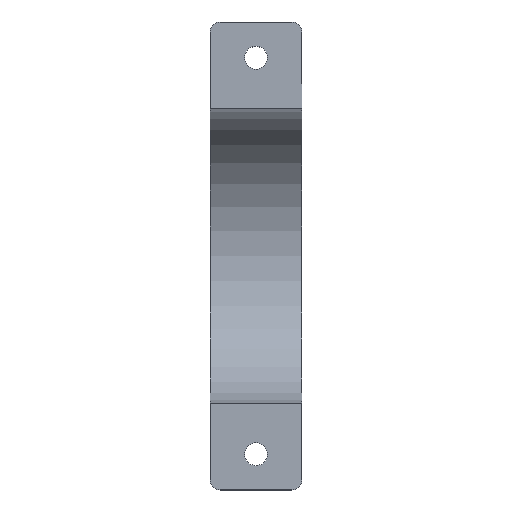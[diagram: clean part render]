
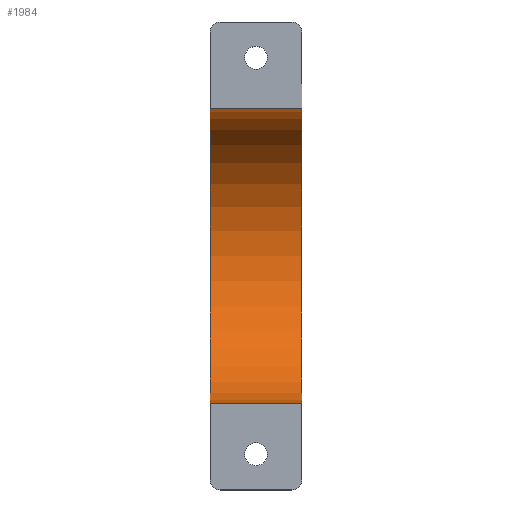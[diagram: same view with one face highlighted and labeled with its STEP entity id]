
A CAD part, top view. The second image highlights one B-rep face of the part: STEP entity #1984.
In plain terms, the highlighted cylindrical face has radius 28.8 mm (diameter 57.6 mm), a partial arc.
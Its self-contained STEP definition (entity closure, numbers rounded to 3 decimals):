
#45 = PLANE('',#46);
#46 = AXIS2_PLACEMENT_3D('',#47,#48,#49);
#47 = CARTESIAN_POINT('',(-9.,0.,0.));
#48 = DIRECTION('',(1.,0.,0.));
#49 = DIRECTION('',(-0.,0.,1.));
#72 = PLANE('',#73);
#73 = AXIS2_PLACEMENT_3D('',#74,#75,#76);
#74 = CARTESIAN_POINT('',(-60.,-80.,-0.75));
#75 = DIRECTION('',(0.,0.,1.));
#76 = DIRECTION('',(1.,0.,0.));
#307 = PLANE('',#308);
#308 = AXIS2_PLACEMENT_3D('',#309,#310,#311);
#309 = CARTESIAN_POINT('',(9.,0.,0.));
#310 = DIRECTION('',(1.,0.,0.));
#311 = DIRECTION('',(-0.,0.,1.));
#334 = PLANE('',#335);
#335 = AXIS2_PLACEMENT_3D('',#336,#337,#338);
#336 = CARTESIAN_POINT('',(-60.,-80.,-0.75));
#337 = DIRECTION('',(0.,0.,1.));
#338 = DIRECTION('',(1.,0.,0.));
#554 = VERTEX_POINT('',#555);
#555 = CARTESIAN_POINT('',(-9.,-28.79,-0.75));
#577 = VERTEX_POINT('',#578);
#578 = CARTESIAN_POINT('',(-9.,28.79,-0.75));
#598 = EDGE_CURVE('',#554,#577,#599,.T.);
#599 = SURFACE_CURVE('',#600,(#605,#612),.PCURVE_S1.);
#600 = CIRCLE('',#601,28.8);
#601 = AXIS2_PLACEMENT_3D('',#602,#603,#604);
#602 = CARTESIAN_POINT('',(-9.,0.,0.));
#603 = DIRECTION('',(1.,0.,0.));
#604 = DIRECTION('',(0.,1.,0.));
#605 = PCURVE('',#45,#606);
#606 = DEFINITIONAL_REPRESENTATION('',(#607),#611);
#607 = CIRCLE('',#608,28.8);
#608 = AXIS2_PLACEMENT_2D('',#609,#610);
#609 = CARTESIAN_POINT('',(0.,0.));
#610 = DIRECTION('',(0.,-1.));
#611 = ( GEOMETRIC_REPRESENTATION_CONTEXT(2) 
PARAMETRIC_REPRESENTATION_CONTEXT() REPRESENTATION_CONTEXT('2D SPACE',''
  ) );
#612 = PCURVE('',#613,#618);
#613 = CYLINDRICAL_SURFACE('',#614,28.8);
#614 = AXIS2_PLACEMENT_3D('',#615,#616,#617);
#615 = CARTESIAN_POINT('',(-9.,0.,0.));
#616 = DIRECTION('',(-1.,-0.,-0.));
#617 = DIRECTION('',(0.,1.,0.));
#618 = DEFINITIONAL_REPRESENTATION('',(#619),#623);
#619 = LINE('',#620,#621);
#620 = CARTESIAN_POINT('',(-0.,0.));
#621 = VECTOR('',#622,1.);
#622 = DIRECTION('',(-1.,0.));
#623 = ( GEOMETRIC_REPRESENTATION_CONTEXT(2) 
PARAMETRIC_REPRESENTATION_CONTEXT() REPRESENTATION_CONTEXT('2D SPACE',''
  ) );
#629 = VERTEX_POINT('',#630);
#630 = CARTESIAN_POINT('',(9.,28.79,-0.75));
#849 = EDGE_CURVE('',#629,#577,#850,.T.);
#850 = SURFACE_CURVE('',#851,(#855,#862),.PCURVE_S1.);
#851 = LINE('',#852,#853);
#852 = CARTESIAN_POINT('',(-9.,28.79,-0.75));
#853 = VECTOR('',#854,1.);
#854 = DIRECTION('',(-1.,-0.,-0.));
#855 = PCURVE('',#334,#856);
#856 = DEFINITIONAL_REPRESENTATION('',(#857),#861);
#857 = LINE('',#858,#859);
#858 = CARTESIAN_POINT('',(51.,108.79));
#859 = VECTOR('',#860,1.);
#860 = DIRECTION('',(-1.,0.));
#861 = ( GEOMETRIC_REPRESENTATION_CONTEXT(2) 
PARAMETRIC_REPRESENTATION_CONTEXT() REPRESENTATION_CONTEXT('2D SPACE',''
  ) );
#862 = PCURVE('',#613,#863);
#863 = DEFINITIONAL_REPRESENTATION('',(#864),#867);
#864 = B_SPLINE_CURVE_WITH_KNOTS('',1,(#865,#866),.UNSPECIFIED.,.F.,.F.,
  (2,2),(-18.,0.),.PIECEWISE_BEZIER_KNOTS.);
#865 = CARTESIAN_POINT('',(-6.257,-18.));
#866 = CARTESIAN_POINT('',(-6.257,0.));
#867 = ( GEOMETRIC_REPRESENTATION_CONTEXT(2) 
PARAMETRIC_REPRESENTATION_CONTEXT() REPRESENTATION_CONTEXT('2D SPACE',''
  ) );
#1295 = VERTEX_POINT('',#1296);
#1296 = CARTESIAN_POINT('',(9.,-28.79,-0.75));
#1318 = EDGE_CURVE('',#1295,#629,#1319,.T.);
#1319 = SURFACE_CURVE('',#1320,(#1325,#1332),.PCURVE_S1.);
#1320 = CIRCLE('',#1321,28.8);
#1321 = AXIS2_PLACEMENT_3D('',#1322,#1323,#1324);
#1322 = CARTESIAN_POINT('',(9.,0.,0.));
#1323 = DIRECTION('',(1.,0.,0.));
#1324 = DIRECTION('',(0.,1.,0.));
#1325 = PCURVE('',#307,#1326);
#1326 = DEFINITIONAL_REPRESENTATION('',(#1327),#1331);
#1327 = CIRCLE('',#1328,28.8);
#1328 = AXIS2_PLACEMENT_2D('',#1329,#1330);
#1329 = CARTESIAN_POINT('',(0.,0.));
#1330 = DIRECTION('',(0.,-1.));
#1331 = ( GEOMETRIC_REPRESENTATION_CONTEXT(2) 
PARAMETRIC_REPRESENTATION_CONTEXT() REPRESENTATION_CONTEXT('2D SPACE',''
  ) );
#1332 = PCURVE('',#613,#1333);
#1333 = DEFINITIONAL_REPRESENTATION('',(#1334),#1338);
#1334 = LINE('',#1335,#1336);
#1335 = CARTESIAN_POINT('',(-0.,-18.));
#1336 = VECTOR('',#1337,1.);
#1337 = DIRECTION('',(-1.,0.));
#1338 = ( GEOMETRIC_REPRESENTATION_CONTEXT(2) 
PARAMETRIC_REPRESENTATION_CONTEXT() REPRESENTATION_CONTEXT('2D SPACE',''
  ) );
#1345 = EDGE_CURVE('',#1295,#554,#1346,.T.);
#1346 = SURFACE_CURVE('',#1347,(#1351,#1358),.PCURVE_S1.);
#1347 = LINE('',#1348,#1349);
#1348 = CARTESIAN_POINT('',(-9.,-28.79,-0.75));
#1349 = VECTOR('',#1350,1.);
#1350 = DIRECTION('',(-1.,-0.,-0.));
#1351 = PCURVE('',#72,#1352);
#1352 = DEFINITIONAL_REPRESENTATION('',(#1353),#1357);
#1353 = LINE('',#1354,#1355);
#1354 = CARTESIAN_POINT('',(51.,51.21));
#1355 = VECTOR('',#1356,1.);
#1356 = DIRECTION('',(-1.,0.));
#1357 = ( GEOMETRIC_REPRESENTATION_CONTEXT(2) 
PARAMETRIC_REPRESENTATION_CONTEXT() REPRESENTATION_CONTEXT('2D SPACE',''
  ) );
#1358 = PCURVE('',#613,#1359);
#1359 = DEFINITIONAL_REPRESENTATION('',(#1360),#1363);
#1360 = B_SPLINE_CURVE_WITH_KNOTS('',1,(#1361,#1362),.UNSPECIFIED.,.F.,
  .F.,(2,2),(-18.,0.),.PIECEWISE_BEZIER_KNOTS.);
#1361 = CARTESIAN_POINT('',(-3.168,-18.));
#1362 = CARTESIAN_POINT('',(-3.168,0.));
#1363 = ( GEOMETRIC_REPRESENTATION_CONTEXT(2) 
PARAMETRIC_REPRESENTATION_CONTEXT() REPRESENTATION_CONTEXT('2D SPACE',''
  ) );
#1984 = ADVANCED_FACE('',(#1985),#613,.F.);
#1985 = FACE_BOUND('',#1986,.T.);
#1986 = EDGE_LOOP('',(#1987,#1988,#1989,#1990));
#1987 = ORIENTED_EDGE('',*,*,#598,.F.);
#1988 = ORIENTED_EDGE('',*,*,#1345,.F.);
#1989 = ORIENTED_EDGE('',*,*,#1318,.T.);
#1990 = ORIENTED_EDGE('',*,*,#849,.T.);
